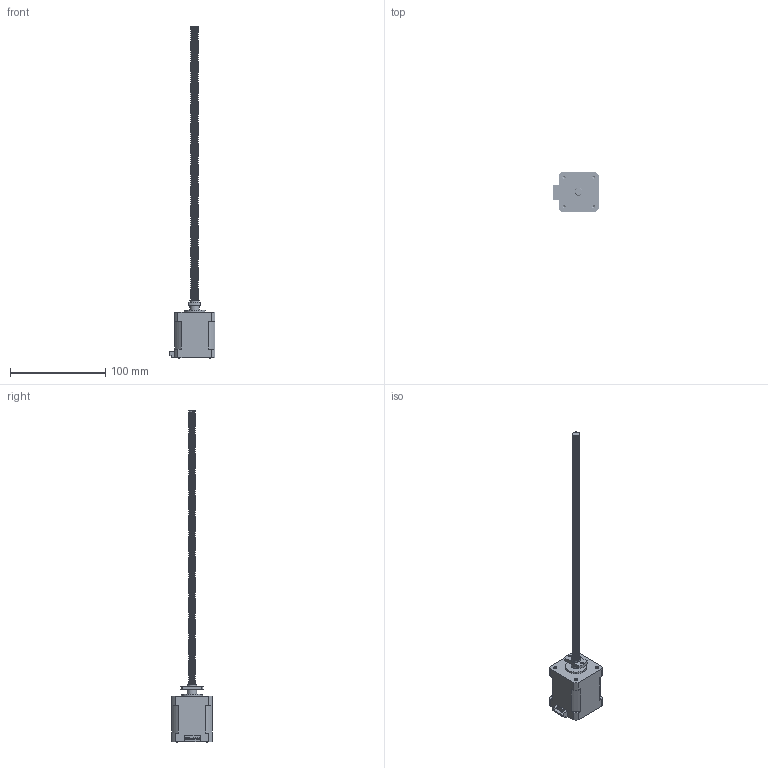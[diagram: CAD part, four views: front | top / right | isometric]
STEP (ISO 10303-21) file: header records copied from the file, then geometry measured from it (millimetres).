
FILE_DESCRIPTION(/* description */ (''),/* implementation_level */ '2;1');
FILE_NAME(/* name */ 'JK42HS48-1004AL-30.step',/* time_stamp */ '2019-11-30T12:44:52+08:00',/* author */ (''),/* organization */ (''),/* preprocessor_version */ 'ST-DEVELOPER v14',/* originating_system */ 'SIEMENS PLM Software NX 8.0',/* authorisation */ '');
FILE_SCHEMA (('AUTOMOTIVE_DESIGN { 1 0 10303 214 3 1 1 1 }'));
Products named in the file (4): M3-luoding; luomu; 42HS48; JK42HS48-1004AL8-30
Assembly tree (6 placements, depth 2):
  JK42HS48-1004AL8-30
    42HS48
    luomu
    M3-luoding  x4
Bounding box: 47.6 x 42 x 348.11 mm (x, y, z)
Volume: 112180.9 mm3; surface area: 25972.7 mm2
Topology: 15 solids, 15 shells, 304 faces, 760 edges, 500 vertices
Faces by surface type: plane 148, cylinder 73, cone 36, bspline 22, torus 21, sphere 4
Full cylindrical faces by diameter (mm): 0.2 x5, 1.5 x2, 2.458 x4, 2.459 x4, 2.675 x4, 3 x4, 3.5 x4, 5.45 x4, 6 x4, 10 x2, 11 x1, 19 x1, 19.5 x1, 22.3 x1
Entity records: 61227 total; most frequent: CARTESIAN_POINT 57032, ORIENTED_EDGE 814, DIRECTION 765, EDGE_CURVE 407, AXIS2_PLACEMENT_3D 311, VERTEX_POINT 294, EDGE_LOOP 252, ADVANCED_FACE 190
